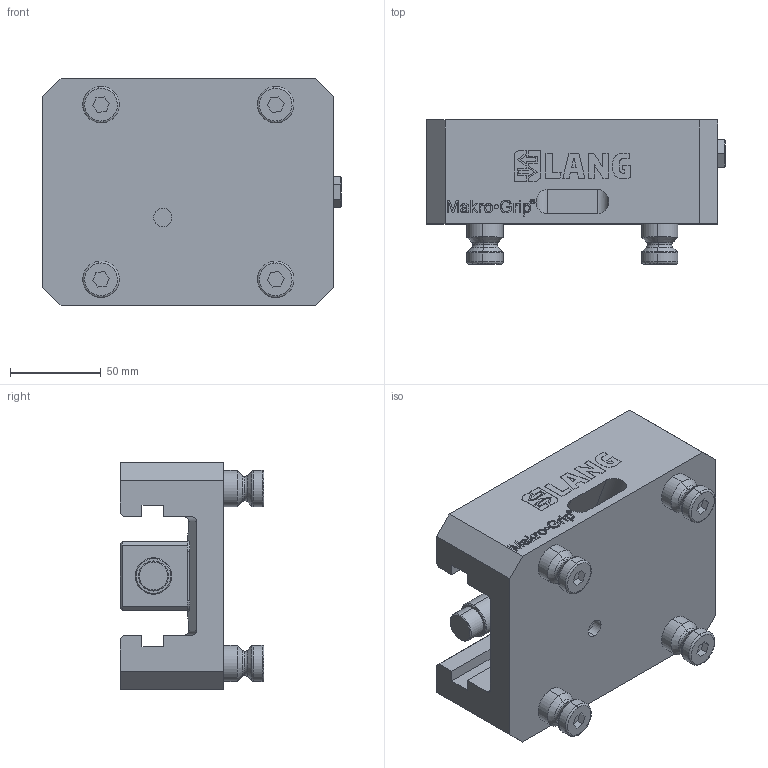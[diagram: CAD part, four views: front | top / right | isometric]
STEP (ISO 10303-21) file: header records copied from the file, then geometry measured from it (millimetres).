
FILE_DESCRIPTION (( 'STEP AP214' ), '1' );
FILE_NAME ('40155-125.STEP', '2024-12-11T08:35:27', ( '' ), ( '' ), 'SwSTEP 2.0', 'SolidWorks 2021', '' );
FILE_SCHEMA (( 'AUTOMOTIVE_DESIGN' ));
Length unit declared in the file: millimetre
Products named in the file (1): 40155-125
Bounding box: 164 x 79 x 125.24 mm (x, y, z)
Volume: 743215.1 mm3; surface area: 123460.9 mm2
Topology: 48 solids, 48 shells, 869 faces, 2162 edges, 1398 vertices
Faces by surface type: plane 527, bspline 192, cylinder 72, cone 46, torus 32
Entity records: 43302 total; most frequent: CARTESIAN_POINT 13918, ORIENTED_EDGE 4292, DIRECTION 3304, EDGE_CURVE 2146, VECTOR 1528, LINE 1528, VERTEX_POINT 1398, EDGE_LOOP 922
